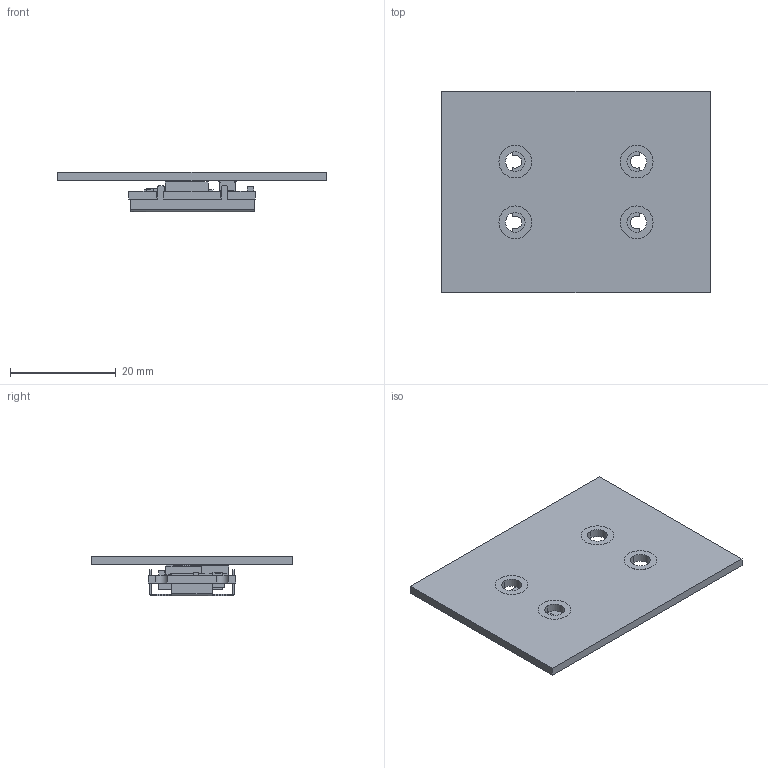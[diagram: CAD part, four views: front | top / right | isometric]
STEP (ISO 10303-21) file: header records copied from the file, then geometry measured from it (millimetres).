
FILE_DESCRIPTION (( 'STEP AP203' ), '1' );
FILE_NAME ('XPC1001000-01 Rev C.STEP', '2018-02-28T19:15:25', ( '' ), ( '' ), 'SwSTEP 2.0', 'SolidWorks 2017', '' );
FILE_SCHEMA (( 'CONFIG_CONTROL_DESIGN' ));
Length unit declared in the file: millimetre
Products named in the file (20): BGA184_P26_10X10, BGA184_P26_10X10_85; SOD-523, SOD-523_28; FID_40_DIA_60_SM, FID_20_DIA_40_SM_88; SMD_0603, SMD_0603_30; xPico_PCBA_330-237-R Rev C; SMD_0201, SMD_0201_33; mating board; DF40C(2.0)-40DS-0.4V(51); SMD_0402, SMD_0402_43; Pico Customer PCB; DF40C(2.0)-40DP-0.4V(51); TP16CT, TP16CT_60; Cover; XPC1001000-01 Rev C; BGA5_P17_03, BGA5_P17_03_72; xPico PCB Outline; SO236_8, SO236_8_74; SMD_0201_CAP, SMD_0201_CAP_1; XTAL_1210_SMD4, XTAL_1210_SMD4_76; SMD_0402_CAP, SMD_0402_CAP_5
Assembly tree (93 placements, depth 3):
  XPC1001000-01 Rev C
    Pico Customer PCB
      mating board
    Cover
    xPico_PCBA_330-237-R Rev C
      xPico PCB Outline
      SMD_0201_CAP, SMD_0201_CAP_1  x26
      SMD_0402_CAP, SMD_0402_CAP_5  x4
      SOD-523, SOD-523_28
      SMD_0603, SMD_0603_30  x3
      SMD_0201, SMD_0201_33  x32
      SMD_0402, SMD_0402_43
      TP16CT, TP16CT_60  x11
      BGA5_P17_03, BGA5_P17_03_72
      SO236_8, SO236_8_74
      XTAL_1210_SMD4, XTAL_1210_SMD4_76
      BGA184_P26_10X10, BGA184_P26_10X10_85
      FID_40_DIA_60_SM, FID_20_DIA_40_SM_88  x4
    DF40C(2.0)-40DS-0.4V(51)
    DF40C(2.0)-40DP-0.4V(51)
Bounding box: 50.8 x 38.1 x 7.49 mm (x, y, z)
Volume: 4006.1 mm3; surface area: 6979.4 mm2
Topology: 91 solids, 91 shells, 2301 faces, 6027 edges, 3998 vertices
Faces by surface type: plane 1727, cylinder 546, cone 16, bspline 12
Entity records: 63747 total; most frequent: CARTESIAN_POINT 10952, ORIENTED_EDGE 10278, DIRECTION 10041, EDGE_CURVE 5139, LINE 3971, VECTOR 3971, VERTEX_POINT 3406, AXIS2_PLACEMENT_3D 3035
